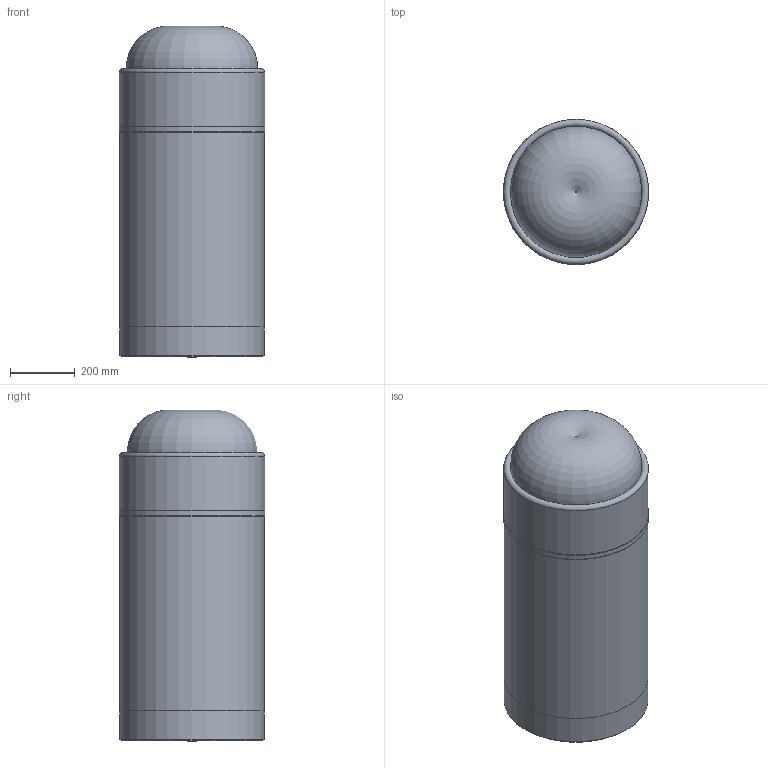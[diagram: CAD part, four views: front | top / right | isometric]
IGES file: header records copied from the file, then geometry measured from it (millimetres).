
Start section: Data from Parasolid IGES Translator 22.0.50, Copyright(c) 2006 Siemens P LM Software. All Rights Reserved.
Global section: file name: noorth-washbasin-H 88 D 45 W 45_5119.igs; native system: By Siemens PLM Incorporated; preprocessor: XPlus GENERIC/IGES 22.0.50; author: Noname; organization: Noname; date: 20240826.214003; units: metre
Bounding box: 451 x 451 x 1028.62 mm (x, y, z)
Volume: 75361434.3 mm3; surface area: 3707000.8 mm2
Topology: 11 solids, 11 shells, 66 faces, 96 edges, 61 vertices
Faces by surface type: plane 31, cylinder 27, torus 7, cone 1
Full cylindrical faces by diameter (mm): 25 x4, 50.25 x1, 55.712 x1, 61.989 x1, 150 x1, 200 x1, 250 x1, 417 x1, 429 x2, 429.156 x1, 437 x5, 437.156 x1, 442.06 x1, 447 x4, 449.8 x1, 451 x1
